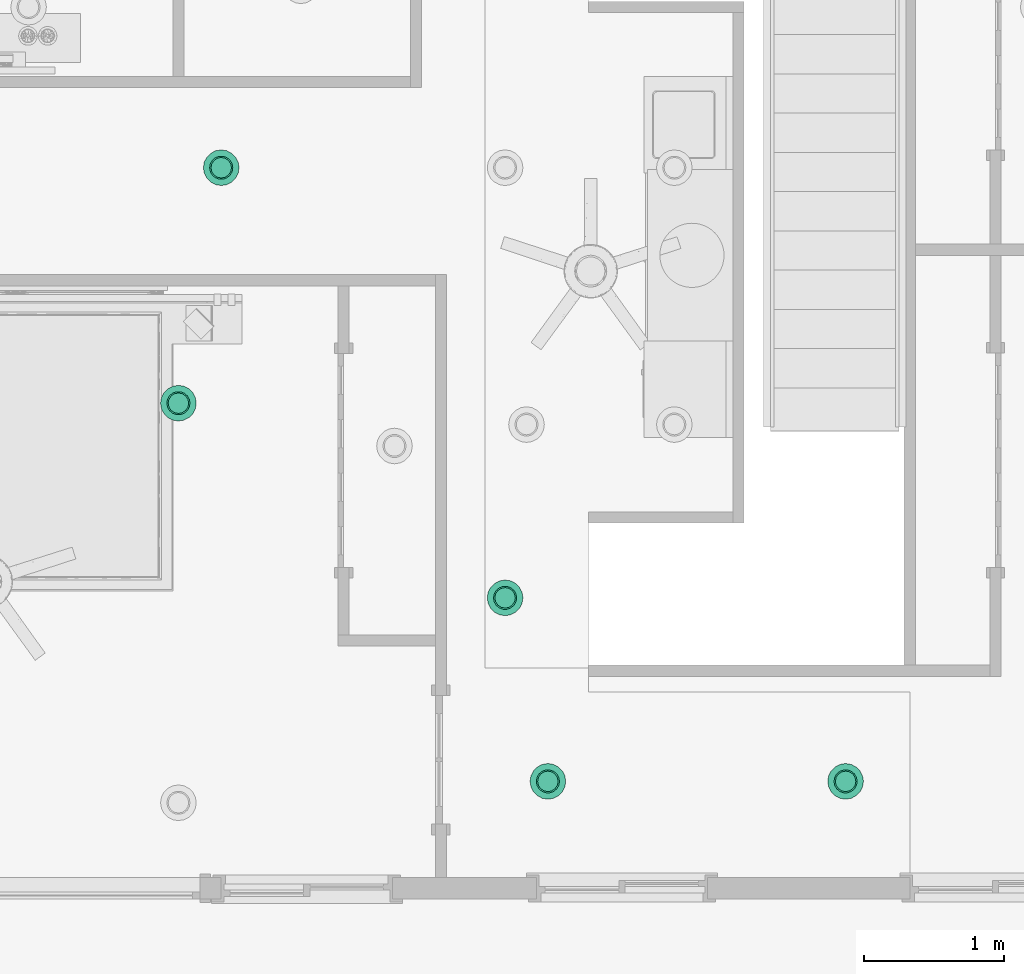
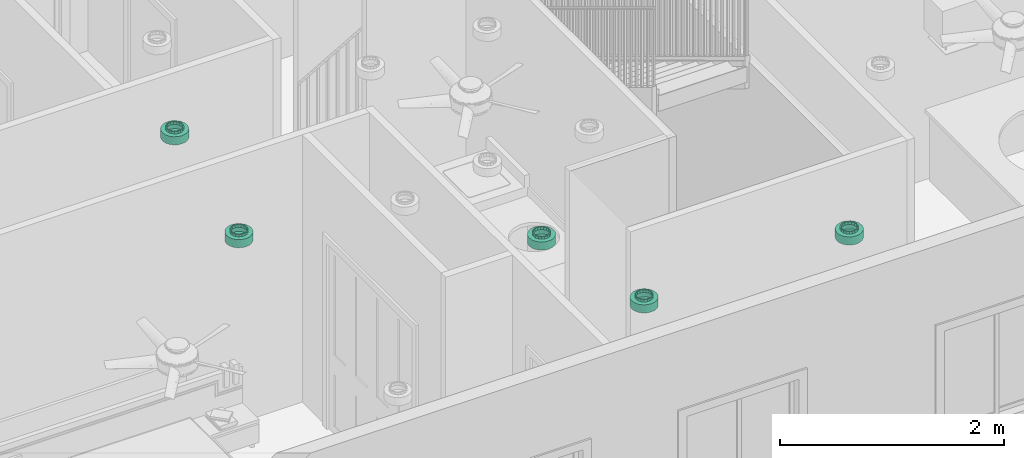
# One storey, part 15 of 28: 5 flow terminals.
"""IFC2X3 building model written with IfcOpenShell, lengths in feet."""

from ifc_helpers import new_model, entity, si_unit, converted_unit, derived_unit, direction, frame, origin, place, context, subcontext, project, spatial, faceted_brep, source, transform, mapped, material, material_list, type_object, type_shapes, element, save


model = new_model("IFC2X3")

# Units and contexts
model_context = context("Model", 3, precision=0.0001, world=origin(), true_north=direction((6.12303176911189e-17, 1.0)))
body_context = subcontext(model_context, "Body", "Model", "MODEL_VIEW")
ifc_project = project(units=[converted_unit("LENGTHUNIT", "FOOT", entity("IfcRatioMeasure", 0.3048), si_unit("LENGTHUNIT", "METRE"), dimensions=[1, 0, 0, 0, 0, 0, 0]), converted_unit("AREAUNIT", "SQUARE FOOT", entity("IfcRatioMeasure", 0.09290304), si_unit("AREAUNIT", "SQUARE_METRE"), dimensions=[2, 0, 0, 0, 0, 0, 0]), converted_unit("VOLUMEUNIT", "CUBIC FOOT", entity("IfcRatioMeasure", 0.028316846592), si_unit("VOLUMEUNIT", "CUBIC_METRE"), dimensions=[3, 0, 0, 0, 0, 0, 0]), converted_unit("PLANEANGLEUNIT", "DEGREE", entity("IfcRatioMeasure", 0.0174532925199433), si_unit("PLANEANGLEUNIT", "RADIAN"), dimensions=[0, 0, 0, 0, 0, 0, 0]), si_unit("MASSUNIT", "GRAM", prefix="KILO"), derived_unit("MASSDENSITYUNIT", [(si_unit("MASSUNIT", "GRAM", prefix="KILO"), 1), (si_unit("LENGTHUNIT", "METRE"), -3)]), si_unit("TIMEUNIT", "SECOND"), si_unit("FREQUENCYUNIT", "HERTZ"), si_unit("THERMODYNAMICTEMPERATUREUNIT", "DEGREE_CELSIUS"), derived_unit("THERMALTRANSMITTANCEUNIT", [(si_unit("MASSUNIT", "GRAM", prefix="KILO"), 1), (si_unit("THERMODYNAMICTEMPERATUREUNIT", "KELVIN"), -1), (si_unit("TIMEUNIT", "SECOND"), -3)]), derived_unit("VOLUMETRICFLOWRATEUNIT", [(si_unit("LENGTHUNIT", "METRE"), 3), (si_unit("TIMEUNIT", "SECOND"), -1)]), si_unit("ELECTRICCURRENTUNIT", "AMPERE"), si_unit("ELECTRICVOLTAGEUNIT", "VOLT"), si_unit("POWERUNIT", "WATT"), si_unit("FORCEUNIT", "NEWTON"), si_unit("ILLUMINANCEUNIT", "LUX"), si_unit("LUMINOUSFLUXUNIT", "LUMEN"), si_unit("LUMINOUSINTENSITYUNIT", "CANDELA"), derived_unit("USERDEFINED", [(si_unit("MASSUNIT", "GRAM", prefix="KILO"), -1), (si_unit("LENGTHUNIT", "METRE"), -2), (si_unit("TIMEUNIT", "SECOND"), 3), (si_unit("LUMINOUSFLUXUNIT", "LUMEN"), 1)]), derived_unit("LINEARVELOCITYUNIT", [(si_unit("LENGTHUNIT", "METRE"), 1), (si_unit("TIMEUNIT", "SECOND"), -1)]), si_unit("PRESSUREUNIT", "PASCAL"), derived_unit("USERDEFINED", [(si_unit("LENGTHUNIT", "METRE"), -2), (si_unit("MASSUNIT", "GRAM", prefix="KILO"), 1), (si_unit("TIMEUNIT", "SECOND"), -2)])], contexts=[model_context])

# Site, building, storey
site_placement = place(None, origin())
site = spatial("IfcSite", under=ifc_project, at=site_placement, Name="表面", CompositionType="ELEMENT")
building_placement = place(site_placement, origin())
building = spatial("IfcBuilding", under=site, at=building_placement, CompositionType="ELEMENT")
storey_placement = place(building_placement, frame((0.0, 0.0, 10.0)))
storey = spatial("IfcBuildingStorey", under=building, at=storey_placement, Name="Level 2", CompositionType="ELEMENT", Elevation=9.99999999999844)

# Flow terminals
ifc_material_1 = material(Name="Metal - Paint Finish - Dark Gray, Matte")
ifc_material_2 = material(Name="Glass - White, High Luminance")
ifc_material_list_1 = material_list([ifc_material_1, ifc_material_2])
ifc_material_list_2 = material_list([ifc_material_1, ifc_material_2])
light_fixture_type = type_object("IfcLightFixtureType", Name="100W - 277V", PredefinedType="NOTDEFINED", material=ifc_material_list_2)
shared_shape = source(origin(), body_context, "Body", "Brep", [
    faceted_brep([(0.557291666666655, 0.187326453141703, 0.374999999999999), (0.598651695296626, 0.245098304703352, 0.374999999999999), (0.558098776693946, 0.218001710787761, 0.374999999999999), (0.629345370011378, 0.247786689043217, 0.374999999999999), (0.517545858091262, 0.190905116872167, 0.374999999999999), (0.468904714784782, 0.155156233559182, 0.374999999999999), (0.625748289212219, 0.285651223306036, 0.374999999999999), (0.65284488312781, 0.326204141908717, 0.374999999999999), (0.676375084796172, 0.329244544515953, 0.374999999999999), (0.6623599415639, 0.374039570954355, 0.374999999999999), (0.671874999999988, 0.42187499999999, 0.374999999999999), (0.692708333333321, 0.421874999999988, 0.374999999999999), (0.676375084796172, 0.514505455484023, 0.374999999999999), (0.662359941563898, 0.469710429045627, 0.374999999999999), (0.652844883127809, 0.517545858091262, 0.374999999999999), (0.629345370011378, 0.595963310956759, 0.374999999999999), (0.625748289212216, 0.558098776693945, 0.374999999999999), (0.598651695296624, 0.598651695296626, 0.374999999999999), (0.557291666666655, 0.656423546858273, 0.374999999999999), (0.55809877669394, 0.625748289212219, 0.374999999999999), (0.517545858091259, 0.65284488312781, 0.374999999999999), (0.468904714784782, 0.688593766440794, 0.374999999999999), (0.469710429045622, 0.662359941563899, 0.374999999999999), (0.421874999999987, 0.671874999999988, 0.374999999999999), (0.374845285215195, 0.688593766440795, 0.374999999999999), (0.374039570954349, 0.662359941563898, 0.374999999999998), (0.326204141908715, 0.652844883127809, 0.374999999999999), (0.286458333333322, 0.656423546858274, 0.374999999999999), (0.285651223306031, 0.625748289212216, 0.374999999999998), (0.245098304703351, 0.598651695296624, 0.374999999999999), (0.214404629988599, 0.59596331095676, 0.374999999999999), (0.218001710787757, 0.558098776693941, 0.374999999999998), (0.190905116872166, 0.51754585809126, 0.374999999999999), (0.167374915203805, 0.514505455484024, 0.374999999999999), (0.181390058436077, 0.469710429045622, 0.374999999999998), (0.171874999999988, 0.421874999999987, 0.374999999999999), (0.151041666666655, 0.421874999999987, 0.374999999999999), (0.167374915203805, 0.329244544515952, 0.374999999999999), (0.181390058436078, 0.374039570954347, 0.374999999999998), (0.190905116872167, 0.326204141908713, 0.374999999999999), (0.214404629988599, 0.247786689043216, 0.374999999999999), (0.218001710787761, 0.28565122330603, 0.374999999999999), (0.245098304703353, 0.245098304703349, 0.374999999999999), (0.286458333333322, 0.187326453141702, 0.374999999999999), (0.285651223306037, 0.218001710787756, 0.374999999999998), (0.326204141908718, 0.190905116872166, 0.374999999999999), (0.374845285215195, 0.155156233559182, 0.374999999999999), (0.42187499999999, 0.171874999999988, 0.374999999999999), (0.374039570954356, 0.181390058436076, 0.374999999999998), (0.469710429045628, 0.181390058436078, 0.374999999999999), (0.557291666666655, 0.656423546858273, 0.291666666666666), (0.598651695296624, 0.598651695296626, 0.291666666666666), (0.55809877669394, 0.625748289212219, 0.291666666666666), (0.629345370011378, 0.595963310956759, 0.291666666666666), (0.517545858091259, 0.65284488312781, 0.291666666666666), (0.468904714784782, 0.688593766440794, 0.291666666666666), (0.625748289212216, 0.558098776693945, 0.291666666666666), (0.652844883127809, 0.517545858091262, 0.291666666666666), (0.676375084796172, 0.514505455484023, 0.291666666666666), (0.662359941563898, 0.469710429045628, 0.291666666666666), (0.671874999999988, 0.42187499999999, 0.291666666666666), (0.692708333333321, 0.421874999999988, 0.291666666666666), (0.676375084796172, 0.329244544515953, 0.291666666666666), (0.659760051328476, 0.36096904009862, 0.291666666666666), (0.65284488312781, 0.326204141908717, 0.291666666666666), (0.629345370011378, 0.247786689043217, 0.291666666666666), (0.625748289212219, 0.285651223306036, 0.291666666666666), (0.598651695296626, 0.245098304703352, 0.291666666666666), (0.557291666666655, 0.187326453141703, 0.291666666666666), (0.558098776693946, 0.218001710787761, 0.291666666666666), (0.517545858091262, 0.190905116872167, 0.291666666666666), (0.468904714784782, 0.155156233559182, 0.291666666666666), (0.469710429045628, 0.181390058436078, 0.291666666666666), (0.42187499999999, 0.171874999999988, 0.291666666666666), (0.374845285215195, 0.155156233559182, 0.291666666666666), (0.374039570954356, 0.181390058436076, 0.291666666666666), (0.326204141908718, 0.190905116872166, 0.291666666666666), (0.286458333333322, 0.187326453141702, 0.291666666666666), (0.285651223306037, 0.218001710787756, 0.291666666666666), (0.245098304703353, 0.245098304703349, 0.291666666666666), (0.214404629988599, 0.247786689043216, 0.291666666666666), (0.218001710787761, 0.28565122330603, 0.291666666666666), (0.190905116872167, 0.326204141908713, 0.291666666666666), (0.167374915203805, 0.329244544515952, 0.291666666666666), (0.181390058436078, 0.374039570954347, 0.291666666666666), (0.171874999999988, 0.421874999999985, 0.291666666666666), (0.151041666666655, 0.421874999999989, 0.291666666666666), (0.167374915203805, 0.514505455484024, 0.291666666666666), (0.183989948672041, 0.482780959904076, 0.291666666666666), (0.190905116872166, 0.51754585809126, 0.291666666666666), (0.214404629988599, 0.59596331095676, 0.291666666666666), (0.218001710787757, 0.558098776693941, 0.291666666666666), (0.245098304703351, 0.598651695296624, 0.291666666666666), (0.286458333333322, 0.656423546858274, 0.291666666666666), (0.285651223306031, 0.625748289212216, 0.291666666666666), (0.326204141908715, 0.652844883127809, 0.291666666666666), (0.374845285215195, 0.688593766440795, 0.291666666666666), (0.421874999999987, 0.671874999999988, 0.291666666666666), (0.374039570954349, 0.662359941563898, 0.291666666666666), (0.469710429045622, 0.662359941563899, 0.291666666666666)], [[[0, 1, 2]], [[1, 0, 3]], [[0, 2, 4]], [[4, 5, 0]], [[3, 6, 1]], [[3, 7, 6]], [[7, 3, 8]], [[8, 9, 7]], [[8, 10, 9]], [[10, 8, 11]], [[10, 11, 12]], [[12, 13, 10]], [[12, 14, 13]], [[15, 14, 12]], [[15, 16, 14]], [[15, 17, 16]], [[18, 17, 15]], [[18, 19, 17]], [[18, 20, 19]], [[21, 20, 18]], [[21, 22, 20]], [[21, 23, 22]], [[24, 23, 21]], [[24, 25, 23]], [[24, 26, 25]], [[27, 26, 24]], [[27, 28, 26]], [[27, 29, 28]], [[29, 27, 30]], [[30, 31, 29]], [[30, 32, 31]], [[32, 30, 33]], [[33, 34, 32]], [[33, 35, 34]], [[36, 35, 33]], [[37, 35, 36]], [[37, 38, 35]], [[37, 39, 38]], [[39, 37, 40]], [[40, 41, 39]], [[40, 42, 41]], [[42, 40, 43]], [[43, 44, 42]], [[43, 45, 44]], [[45, 43, 46]], [[47, 46, 5]], [[46, 47, 48]], [[46, 48, 45]], [[5, 4, 49]], [[5, 49, 47]], [[50, 51, 52]], [[51, 50, 53]], [[50, 52, 54]], [[54, 55, 50]], [[53, 56, 51]], [[53, 57, 56]], [[57, 53, 58]], [[58, 59, 57]], [[58, 60, 59]], [[60, 58, 61]], [[60, 61, 62]], [[62, 63, 60]], [[62, 64, 63]], [[65, 64, 62]], [[65, 66, 64]], [[65, 67, 66]], [[68, 67, 65]], [[68, 69, 67]], [[68, 70, 69]], [[71, 70, 68]], [[71, 72, 70]], [[71, 73, 72]], [[74, 73, 71]], [[74, 75, 73]], [[74, 76, 75]], [[77, 76, 74]], [[77, 78, 76]], [[77, 79, 78]], [[79, 77, 80]], [[80, 81, 79]], [[80, 82, 81]], [[82, 80, 83]], [[83, 84, 82]], [[83, 85, 84]], [[86, 85, 83]], [[87, 85, 86]], [[87, 88, 85]], [[87, 89, 88]], [[89, 87, 90]], [[90, 91, 89]], [[90, 92, 91]], [[92, 90, 93]], [[93, 94, 92]], [[93, 95, 94]], [[95, 93, 96]], [[97, 96, 55]], [[96, 97, 98]], [[96, 98, 95]], [[55, 54, 99]], [[55, 99, 97]], [[37, 36, 86, 83]], [[43, 40, 80, 77]], [[83, 80, 40, 37]], [[77, 74, 46, 43]], [[74, 71, 5, 46]], [[0, 5, 71, 68]], [[8, 3, 65, 62]], [[68, 65, 3, 0]], [[62, 61, 11, 8]], [[12, 11, 61, 58]], [[18, 15, 53, 50]], [[58, 53, 15, 12]], [[50, 55, 21, 18]], [[55, 96, 24, 21]], [[27, 24, 96, 93]], [[87, 33, 30, 90]], [[90, 30, 27, 93]], [[33, 87, 86, 36]], [[34, 35, 85, 88, 89, 32]], [[89, 91, 92, 29, 31, 32]], [[59, 60, 10, 13, 14, 57]], [[92, 94, 95, 26, 28, 29]], [[23, 25, 26, 95, 98, 97]], [[97, 99, 54, 20, 22, 23]], [[16, 17, 51, 56, 57, 14]], [[54, 52, 51, 17, 19, 20]], [[9, 10, 60, 63, 64, 7]], [[64, 66, 67, 1, 6, 7]], [[84, 85, 35, 38, 39, 82]], [[67, 69, 70, 4, 2, 1]], [[47, 49, 4, 70, 72, 73]], [[73, 75, 76, 45, 48, 47]], [[41, 42, 79, 81, 82, 39]], [[76, 78, 79, 42, 44, 45]]]),
    faceted_brep([(0.671874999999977, 0.421874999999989, 0.291666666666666), (0.838541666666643, 0.421874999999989, 0.291666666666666), (0.81814854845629, 0.550632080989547, 0.291666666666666), (0.818148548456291, 0.293117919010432, 0.291666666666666), (0.659760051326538, 0.360969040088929, 0.291666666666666), (0.662359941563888, 0.469710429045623, 0.291666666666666), (0.6528448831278, 0.326204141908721, 0.291666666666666), (0.758965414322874, 0.176964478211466, 0.291666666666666), (0.625748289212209, 0.28565122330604, 0.291666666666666), (0.598651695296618, 0.24509830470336, 0.291666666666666), (0.666785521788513, 0.084784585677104, 0.291666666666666), (0.558098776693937, 0.218001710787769, 0.291666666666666), (0.517545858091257, 0.190905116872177, 0.291666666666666), (0.550632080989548, 0.025601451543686, 0.291666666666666), (0.469710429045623, 0.181390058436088, 0.291666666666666), (0.421874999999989, 0.171874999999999, 0.291666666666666), (0.42187499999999, 0.00520833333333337, 0.291666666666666), (0.293117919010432, 0.0256014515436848, 0.291666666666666), (0.374039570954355, 0.181390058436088, 0.291666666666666), (0.326204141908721, 0.190905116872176, 0.291666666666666), (0.176964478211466, 0.0847845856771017, 0.291666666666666), (0.285651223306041, 0.218001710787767, 0.291666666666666), (0.24509830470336, 0.245098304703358, 0.291666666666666), (0.0847845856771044, 0.176964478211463, 0.291666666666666), (0.218001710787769, 0.285651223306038, 0.291666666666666), (0.190905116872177, 0.326204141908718, 0.291666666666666), (0.0256014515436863, 0.293117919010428, 0.291666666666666), (0.181390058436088, 0.374039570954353, 0.291666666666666), (0.171874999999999, 0.421874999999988, 0.291666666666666), (0.00520833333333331, 0.421874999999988, 0.291666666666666), (0.0256014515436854, 0.550632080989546, 0.291666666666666), (0.183989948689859, 0.482780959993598, 0.291666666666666), (0.190905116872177, 0.517545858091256, 0.291666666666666), (0.0847845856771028, 0.666785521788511, 0.291666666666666), (0.218001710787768, 0.558098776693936, 0.291666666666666), (0.245098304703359, 0.598651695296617, 0.291666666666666), (0.176964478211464, 0.758965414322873, 0.291666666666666), (0.285651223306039, 0.625748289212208, 0.291666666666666), (0.32620414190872, 0.652844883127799, 0.291666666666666), (0.29311791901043, 0.81814854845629, 0.291666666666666), (0.374039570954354, 0.662359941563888, 0.291666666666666), (0.421874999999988, 0.671874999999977, 0.291666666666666), (0.421874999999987, 0.838541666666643, 0.291666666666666), (0.550632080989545, 0.818148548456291, 0.291666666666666), (0.469710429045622, 0.662359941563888, 0.291666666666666), (0.517545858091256, 0.6528448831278, 0.291666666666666), (0.666785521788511, 0.758965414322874, 0.291666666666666), (0.558098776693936, 0.625748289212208, 0.291666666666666), (0.598651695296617, 0.598651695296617, 0.291666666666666), (0.758965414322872, 0.666785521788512, 0.291666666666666), (0.625748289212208, 0.558098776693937, 0.291666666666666), (0.652844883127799, 0.517545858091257, 0.291666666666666), (0.0256014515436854, 0.550632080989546, 0.0), (0.00520833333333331, 0.421874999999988, 0.0), (0.0847845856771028, 0.666785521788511, 0.0), (0.176964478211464, 0.758965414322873, 0.0), (0.29311791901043, 0.818148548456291, 0.0), (0.421874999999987, 0.838541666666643, 0.0), (0.550632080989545, 0.818148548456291, 0.0), (0.666785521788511, 0.758965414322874, 0.0), (0.758965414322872, 0.666785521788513, 0.0), (0.81814854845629, 0.550632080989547, 0.0), (0.838541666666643, 0.42187499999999, 0.0), (0.818148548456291, 0.293117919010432, 0.0), (0.666785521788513, 0.0847845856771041, 0.0), (0.550632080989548, 0.025601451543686, 0.0), (0.42187499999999, 0.00520833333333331, 0.0), (0.758965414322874, 0.176964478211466, 0.0), (0.293117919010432, 0.0256014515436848, 0.0), (0.176964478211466, 0.0847845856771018, 0.0), (0.0847845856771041, 0.176964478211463, 0.0), (0.025601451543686, 0.293117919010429, 0.0), (0.421874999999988, 0.421874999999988, 0.0), (0.808241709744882, 0.547413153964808, 0.0104166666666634), (0.421874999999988, 0.421874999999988, 0.0104166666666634), (0.828124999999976, 0.421874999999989, 0.0104166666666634), (0.7505381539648, 0.660662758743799, 0.0104166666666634), (0.660662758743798, 0.750538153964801, 0.0104166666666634), (0.547413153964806, 0.808241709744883, 0.0104166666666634), (0.421874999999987, 0.828124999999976, 0.0104166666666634), (0.296336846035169, 0.808241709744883, 0.0104166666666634), (0.183087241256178, 0.750538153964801, 0.0104166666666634), (0.0932118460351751, 0.660662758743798, 0.0104166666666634), (0.0355082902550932, 0.547413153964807, 0.0104166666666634), (0.0156249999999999, 0.421874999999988, 0.0104166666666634), (0.0355082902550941, 0.296336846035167, 0.0104166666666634), (0.0932118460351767, 0.183087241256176, 0.0104166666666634), (0.18308724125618, 0.093211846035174, 0.0104166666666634), (0.296336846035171, 0.0355082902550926, 0.0104166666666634), (0.42187499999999, 0.0156249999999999, 0.0104166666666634), (0.547413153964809, 0.0355082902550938, 0.0104166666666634), (0.6606627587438, 0.0932118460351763, 0.0104166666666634), (0.750538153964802, 0.183087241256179, 0.0104166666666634), (0.808241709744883, 0.296336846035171, 0.0104166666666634), (0.0355082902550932, 0.547413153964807, 0.281249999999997), (0.0156249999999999, 0.421874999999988, 0.281249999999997), (0.0932118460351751, 0.660662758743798, 0.281249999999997), (0.183087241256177, 0.750538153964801, 0.281249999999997), (0.296336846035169, 0.808241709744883, 0.281249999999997), (0.421874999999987, 0.828124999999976, 0.281249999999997), (0.660662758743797, 0.750538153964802, 0.281249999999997), (0.547413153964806, 0.808241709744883, 0.281249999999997), (0.808241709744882, 0.547413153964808, 0.281249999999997), (0.7505381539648, 0.660662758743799, 0.281249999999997), (0.828124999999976, 0.42187499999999, 0.281249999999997), (0.808241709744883, 0.296336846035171, 0.281249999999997), (0.547413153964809, 0.0355082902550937, 0.281249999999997), (0.6606627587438, 0.0932118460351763, 0.281249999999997), (0.42187499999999, 0.0156249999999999, 0.281249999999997), (0.750538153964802, 0.183087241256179, 0.281249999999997), (0.183087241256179, 0.0932118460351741, 0.281249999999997), (0.296336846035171, 0.0355082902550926, 0.281249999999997), (0.0355082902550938, 0.296336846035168, 0.281249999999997), (0.0932118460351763, 0.183087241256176, 0.281249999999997), (0.66145833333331, 0.421874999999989, 0.281249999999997), (0.650878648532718, 0.475062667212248, 0.281249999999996), (0.643221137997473, 0.513559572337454, 0.281249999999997), (0.650878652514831, 0.368687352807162, 0.281249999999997), (0.643221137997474, 0.330190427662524, 0.281249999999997), (0.617253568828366, 0.291327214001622, 0.281249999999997), (0.591285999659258, 0.25246400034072, 0.281249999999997), (0.552422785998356, 0.226496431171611, 0.281249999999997), (0.513559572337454, 0.200528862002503, 0.281249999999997), (0.467717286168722, 0.191410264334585, 0.281249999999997), (0.421874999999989, 0.182291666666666, 0.281249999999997), (0.376032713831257, 0.191410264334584, 0.281249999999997), (0.330190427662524, 0.200528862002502, 0.281249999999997), (0.291327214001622, 0.22649643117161, 0.281249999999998), (0.25246400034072, 0.252464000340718, 0.281249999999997), (0.226496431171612, 0.29132721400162, 0.281249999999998), (0.200528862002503, 0.330190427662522, 0.281249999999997), (0.191410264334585, 0.376032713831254, 0.281249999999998), (0.182291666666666, 0.421874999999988, 0.281249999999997), (0.192871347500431, 0.47506264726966, 0.281249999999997), (0.200528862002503, 0.513559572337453, 0.281249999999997), (0.226496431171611, 0.552422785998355, 0.281249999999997), (0.252464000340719, 0.591285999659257, 0.281249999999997), (0.291327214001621, 0.617253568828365, 0.281249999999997), (0.330190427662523, 0.643221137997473, 0.281249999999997), (0.376032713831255, 0.652339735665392, 0.281249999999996), (0.421874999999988, 0.66145833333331, 0.281249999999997), (0.46771728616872, 0.652339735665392, 0.281249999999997), (0.513559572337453, 0.643221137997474, 0.281249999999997), (0.591285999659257, 0.591285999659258, 0.281249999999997), (0.552422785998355, 0.617253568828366, 0.281249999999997), (0.617253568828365, 0.552422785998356, 0.281249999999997), (0.191410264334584, 0.467717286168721, 0.375), (0.182291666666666, 0.421874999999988, 0.375), (0.200528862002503, 0.513559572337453, 0.375), (0.252464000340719, 0.591285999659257, 0.375), (0.226496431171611, 0.552422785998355, 0.375), (0.330190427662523, 0.643221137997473, 0.375), (0.291327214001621, 0.617253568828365, 0.375), (0.421874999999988, 0.66145833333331, 0.375), (0.376032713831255, 0.652339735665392, 0.375), (0.552422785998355, 0.617253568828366, 0.375), (0.513559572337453, 0.643221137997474, 0.375), (0.591285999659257, 0.591285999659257, 0.375), (0.643221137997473, 0.513559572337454, 0.375), (0.617253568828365, 0.552422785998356, 0.375), (0.46771728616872, 0.652339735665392, 0.375), (0.652339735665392, 0.467717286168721, 0.375), (0.66145833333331, 0.421874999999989, 0.375), (0.652339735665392, 0.376032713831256, 0.375), (0.643221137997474, 0.330190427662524, 0.375), (0.591285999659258, 0.25246400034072, 0.375), (0.617253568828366, 0.291327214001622, 0.375), (0.513559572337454, 0.200528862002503, 0.375), (0.552422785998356, 0.226496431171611, 0.375), (0.421874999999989, 0.182291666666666, 0.375), (0.467717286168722, 0.191410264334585, 0.375), (0.200528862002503, 0.330190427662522, 0.375), (0.192871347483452, 0.368687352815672, 0.375), (0.25246400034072, 0.252464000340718, 0.375), (0.291327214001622, 0.22649643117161, 0.375), (0.330190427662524, 0.200528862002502, 0.375), (0.226496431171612, 0.29132721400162, 0.375), (0.376032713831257, 0.191410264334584, 0.375), (0.671874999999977, 0.421874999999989, 0.375), (0.659760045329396, 0.482780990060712, 0.375), (0.652844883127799, 0.517545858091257, 0.375), (0.662359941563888, 0.374039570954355, 0.375), (0.6528448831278, 0.326204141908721, 0.375), (0.625748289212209, 0.28565122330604, 0.375), (0.598651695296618, 0.24509830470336, 0.375), (0.558098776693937, 0.218001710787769, 0.375), (0.517545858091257, 0.190905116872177, 0.375), (0.469710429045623, 0.181390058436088, 0.375), (0.421874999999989, 0.171874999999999, 0.375), (0.374039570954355, 0.181390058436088, 0.375), (0.326204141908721, 0.190905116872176, 0.375), (0.285651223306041, 0.218001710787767, 0.375), (0.24509830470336, 0.245098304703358, 0.375), (0.218001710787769, 0.285651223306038, 0.375), (0.190905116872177, 0.326204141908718, 0.375), (0.183989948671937, 0.360969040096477, 0.375), (0.171874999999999, 0.421874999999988, 0.375), (0.181390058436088, 0.469710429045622, 0.375), (0.190905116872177, 0.517545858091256, 0.375), (0.218001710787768, 0.558098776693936, 0.375), (0.245098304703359, 0.598651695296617, 0.375), (0.285651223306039, 0.625748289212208, 0.375), (0.32620414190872, 0.652844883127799, 0.375), (0.374039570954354, 0.662359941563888, 0.375), (0.421874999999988, 0.671874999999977, 0.375), (0.469710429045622, 0.662359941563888, 0.375), (0.517545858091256, 0.6528448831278, 0.375), (0.558098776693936, 0.625748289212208, 0.375), (0.598651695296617, 0.598651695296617, 0.375), (0.625748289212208, 0.558098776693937, 0.375)], [[[0, 1, 2]], [[0, 3, 1]], [[3, 0, 4]], [[2, 5, 0]], [[3, 4, 6]], [[7, 3, 6]], [[7, 6, 8]], [[7, 8, 9]], [[10, 7, 9]], [[10, 9, 11]], [[10, 11, 12]], [[10, 12, 13]], [[13, 12, 14]], [[13, 14, 15]], [[16, 13, 15]], [[16, 15, 17]], [[17, 15, 18]], [[17, 18, 19]], [[17, 19, 20]], [[20, 19, 21]], [[20, 21, 22]], [[23, 20, 22]], [[23, 22, 24]], [[23, 24, 25]], [[25, 26, 23]], [[26, 25, 27]], [[26, 27, 28]], [[29, 26, 28]], [[30, 29, 28]], [[30, 28, 31]], [[30, 31, 32]], [[30, 32, 33]], [[33, 32, 34]], [[33, 34, 35]], [[36, 33, 35]], [[36, 35, 37]], [[36, 37, 38]], [[39, 36, 38]], [[39, 38, 40]], [[39, 40, 41]], [[42, 39, 41]], [[42, 41, 43]], [[43, 41, 44]], [[43, 44, 45]], [[46, 43, 45]], [[46, 45, 47]], [[46, 47, 48]], [[46, 48, 49]], [[49, 48, 50]], [[49, 50, 51]], [[49, 51, 2]], [[2, 51, 5]], [[52, 53, 29, 30]], [[30, 33, 54, 52]], [[36, 55, 54, 33]], [[55, 36, 39, 56]], [[56, 39, 42, 57]], [[58, 43, 46, 59]], [[60, 49, 2, 61]], [[46, 49, 60, 59]], [[61, 2, 1, 62]], [[43, 58, 57, 42]], [[1, 3, 63, 62]], [[64, 10, 13, 65]], [[16, 66, 65, 13]], [[63, 3, 7, 67]], [[10, 64, 67, 7]], [[68, 17, 20, 69]], [[70, 23, 26, 71]], [[20, 23, 70, 69]], [[71, 26, 29, 53]], [[17, 68, 66, 16]], [[62, 72, 61]], [[62, 63, 72]], [[72, 63, 67]], [[72, 67, 64]], [[72, 64, 65]], [[65, 66, 72]], [[68, 72, 66]], [[72, 68, 69]], [[72, 69, 70]], [[71, 72, 70]], [[72, 71, 53]], [[72, 53, 52]], [[72, 52, 54]], [[54, 55, 72]], [[72, 55, 56]], [[56, 57, 72]], [[72, 57, 58]], [[59, 72, 58]], [[72, 59, 60]], [[61, 72, 60]], [[73, 74, 75]], [[76, 74, 73]], [[76, 77, 74]], [[78, 74, 77]], [[78, 79, 74]], [[74, 79, 80]], [[80, 81, 74]], [[74, 81, 82]], [[82, 83, 74]], [[83, 84, 74]], [[84, 85, 74]], [[86, 74, 85]], [[86, 87, 74]], [[87, 88, 74]], [[89, 74, 88]], [[74, 89, 90]], [[90, 91, 74]], [[91, 92, 74]], [[92, 93, 74]], [[74, 93, 75]], [[94, 95, 84, 83]], [[82, 96, 94, 83]], [[96, 82, 81, 97]], [[81, 80, 98, 97]], [[98, 80, 79, 99]], [[100, 101, 78, 77]], [[102, 103, 76, 73]], [[77, 76, 103, 100]], [[104, 102, 73, 75]], [[79, 78, 101, 99]], [[105, 104, 75, 93]], [[106, 107, 91, 90]], [[108, 106, 90, 89]], [[93, 92, 109, 105]], [[109, 92, 91, 107]], [[110, 111, 88, 87]], [[112, 113, 86, 85]], [[87, 86, 113, 110]], [[95, 112, 85, 84]], [[89, 88, 111, 108]], [[102, 104, 114]], [[102, 114, 115]], [[102, 115, 116]], [[102, 116, 103]], [[104, 105, 114]], [[105, 117, 114]], [[105, 118, 117]], [[118, 105, 109]], [[109, 119, 118]], [[109, 120, 119]], [[120, 109, 107]], [[107, 121, 120]], [[107, 122, 121]], [[106, 122, 107]], [[106, 123, 122]], [[106, 124, 123]], [[124, 106, 108]], [[111, 124, 108]], [[111, 125, 124]], [[111, 126, 125]], [[110, 126, 111]], [[110, 127, 126]], [[110, 128, 127]], [[128, 110, 113]], [[113, 129, 128]], [[113, 130, 129]], [[113, 112, 130]], [[112, 131, 130]], [[112, 132, 131]], [[132, 112, 95]], [[132, 95, 94]], [[94, 133, 132]], [[94, 134, 133]], [[96, 134, 94]], [[96, 135, 134]], [[96, 136, 135]], [[136, 96, 97]], [[97, 137, 136]], [[97, 138, 137]], [[138, 97, 98]], [[98, 139, 138]], [[98, 140, 139]], [[140, 98, 99]], [[101, 140, 99]], [[101, 141, 140]], [[101, 142, 141]], [[142, 101, 100]], [[103, 143, 100]], [[100, 143, 144]], [[100, 144, 142]], [[103, 116, 145]], [[103, 145, 143]], [[146, 147, 132, 133, 134, 148]], [[136, 149, 150, 148, 134, 135]], [[136, 137, 138, 151, 152, 149]], [[151, 138, 139, 140, 153, 154]], [[155, 156, 142, 144, 143, 157]], [[116, 158, 159, 157, 143, 145]], [[153, 140, 141, 142, 156, 160]], [[161, 158, 116, 115, 114, 162]], [[163, 162, 114, 117, 118, 164]], [[120, 165, 166, 164, 118, 119]], [[120, 121, 122, 167, 168, 165]], [[123, 124, 169, 170, 167, 122]], [[171, 130, 131, 132, 147, 172]], [[128, 173, 174, 175, 126, 127]], [[128, 129, 130, 171, 176, 173]], [[175, 177, 169, 124, 125, 126]], [[162, 178, 179]], [[162, 179, 180]], [[180, 161, 162]], [[162, 181, 178]], [[162, 182, 181]], [[182, 162, 163]], [[182, 163, 164]], [[164, 183, 182]], [[164, 184, 183]], [[184, 164, 166]], [[184, 166, 165]], [[165, 185, 184]], [[165, 186, 185]], [[186, 165, 168]], [[186, 168, 167]], [[167, 187, 186]], [[167, 188, 187]], [[188, 167, 170]], [[188, 170, 169]], [[188, 169, 177]], [[188, 177, 175]], [[175, 189, 188]], [[175, 190, 189]], [[190, 175, 174]], [[190, 174, 173]], [[173, 191, 190]], [[173, 192, 191]], [[192, 173, 176]], [[192, 176, 171]], [[171, 193, 192]], [[171, 194, 193]], [[194, 171, 172]], [[194, 172, 147]], [[147, 195, 194]], [[147, 196, 195]], [[147, 197, 196]], [[147, 198, 197]], [[198, 147, 146]], [[198, 146, 148]], [[148, 199, 198]], [[148, 200, 199]], [[200, 148, 150]], [[200, 150, 149]], [[149, 201, 200]], [[149, 202, 201]], [[202, 149, 152]], [[202, 152, 151]], [[151, 203, 202]], [[151, 204, 203]], [[204, 151, 154]], [[204, 154, 153]], [[204, 153, 160]], [[204, 160, 156]], [[156, 205, 204]], [[156, 206, 205]], [[206, 156, 155]], [[206, 155, 157]], [[157, 207, 206]], [[157, 208, 207]], [[208, 157, 159]], [[208, 159, 158]], [[158, 180, 209]], [[180, 158, 161]], [[158, 209, 208]], [[198, 32, 31, 28, 196, 197]], [[199, 200, 35, 34, 32, 198]], [[200, 201, 202, 38, 37, 35]], [[40, 38, 202, 203, 204, 41]], [[47, 45, 206, 207, 208, 48]], [[178, 0, 5, 51, 180, 179]], [[208, 209, 180, 51, 50, 48]], [[45, 44, 41, 204, 205, 206]], [[182, 6, 4, 0, 178, 181]], [[183, 184, 9, 8, 6, 182]], [[184, 185, 186, 12, 11, 9]], [[187, 188, 15, 14, 12, 186]], [[195, 196, 28, 27, 25, 194]], [[191, 192, 22, 21, 19, 190]], [[192, 193, 194, 25, 24, 22]], [[19, 18, 15, 188, 189, 190]]]),
])
type_shapes(light_fixture_type, [shared_shape])
flow_terminal_1_placement = place(storey_placement, frame((-0.790121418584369, 3.26051869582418, 9.125)))
element("IfcFlowTerminal", 1, at=flow_terminal_1_placement, inside=storey, type_object=light_fixture_type, material=ifc_material_list_1, Name="Ceiling Light - Flat Round:100W - 277V", ObjectType="100W - 277V", context=body_context, shape_type="MappedRepresentation", body=[
    mapped(shared_shape, transform((0.0, 0.0, 0.0), scale=1.0)),
])
ifc_material_list_3 = material_list([ifc_material_1, ifc_material_2])
flow_terminal_2_placement = place(storey_placement, frame((6.84008691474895, -11.0728146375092, 9.125)))
element("IfcFlowTerminal", 2, at=flow_terminal_2_placement, inside=storey, type_object=light_fixture_type, material=ifc_material_list_3, Name="Ceiling Light - Flat Round:100W - 277V", ObjectType="100W - 277V", context=body_context, shape_type="MappedRepresentation", body=[
    mapped(shared_shape, transform((0.0, 0.0, 0.0), scale=1.0)),
])
ifc_material_list_4 = material_list([ifc_material_1, ifc_material_2])
flow_terminal_3_placement = place(storey_placement, frame((5.84008691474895, -6.78635630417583, 9.125)))
element("IfcFlowTerminal", 3, at=flow_terminal_3_placement, inside=storey, type_object=light_fixture_type, material=ifc_material_list_4, Name="Ceiling Light - Flat Round:100W - 277V", ObjectType="100W - 277V", context=body_context, shape_type="MappedRepresentation", body=[
    mapped(shared_shape, transform((0.0, 0.0, 0.0), scale=1.0)),
])
ifc_material_list_5 = material_list([ifc_material_1, ifc_material_2])
flow_terminal_4_placement = place(storey_placement, frame((13.7932119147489, -11.0728146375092, 9.125)))
element("IfcFlowTerminal", 4, at=flow_terminal_4_placement, inside=storey, type_object=light_fixture_type, material=ifc_material_list_5, Name="Ceiling Light - Flat Round:100W - 277V", ObjectType="100W - 277V", context=body_context, shape_type="MappedRepresentation", body=[
    mapped(shared_shape, transform((0.0, 0.0, 0.0), scale=1.0)),
])
ifc_material_list_6 = material_list([ifc_material_1, ifc_material_2])
flow_terminal_5_placement = place(storey_placement, frame((-1.79012141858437, -2.23948130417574, 9.125)))
element("IfcFlowTerminal", 5, at=flow_terminal_5_placement, inside=storey, type_object=light_fixture_type, material=ifc_material_list_6, Name="Ceiling Light - Flat Round:100W - 277V", ObjectType="100W - 277V", context=body_context, shape_type="MappedRepresentation", body=[
    mapped(shared_shape, transform((0.0, 0.0, 0.0), scale=1.0)),
])

save(model, "model.ifc")
